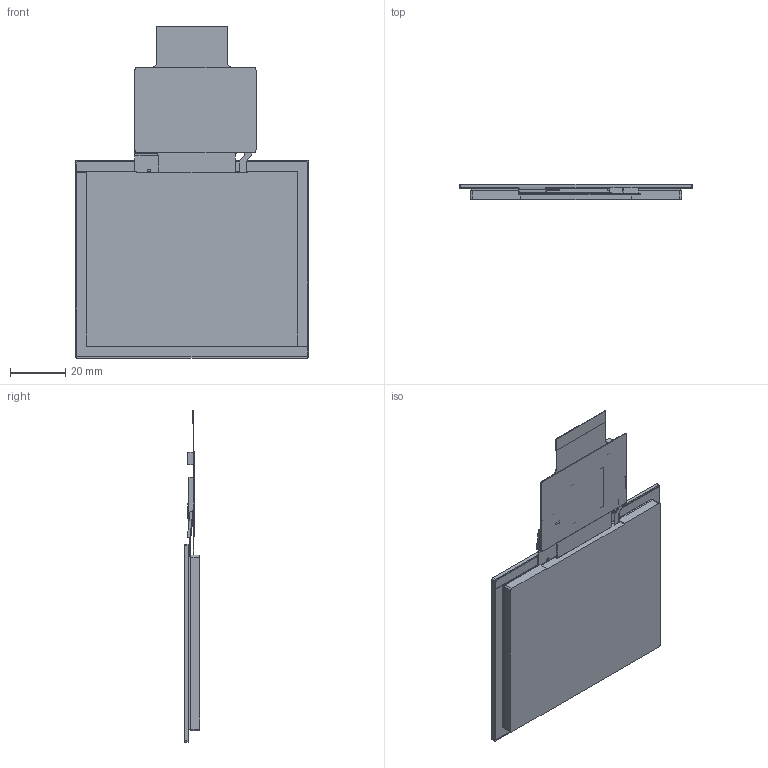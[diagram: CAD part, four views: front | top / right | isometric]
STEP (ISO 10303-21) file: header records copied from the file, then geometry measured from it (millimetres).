
FILE_DESCRIPTION((''),'2;1');
FILE_NAME('3D-DMG32240F035_01WTCZ02','2024-09-11T',('Administrator'),(''),'PRO/ENGINEER BY PARAMETRIC TECHNOLOGY CORPORATION, 2008380','PRO/ENGINEER BY PARAMETRIC TECHNOLOGY CORPORATION, 2008380','');
FILE_SCHEMA(('CONFIG_CONTROL_DESIGN'));
Length unit declared in the file: millimetre
Products named in the file (1): 3D-DMG32240F035_01WTCZ02
Bounding box: 84.84 x 5.54 x 120.55 mm (x, y, z)
Volume: 28466.4 mm3; surface area: 27144.3 mm2
Topology: 1 solids, 1 shells, 154 faces, 1152 edges, 1156 vertices
Faces by surface type: plane 121, cylinder 33
Entity records: 12368 total; most frequent: DIRECTION 1781, CARTESIAN_POINT 1622, ORIENTED_EDGE 888, PRESENTATION_STYLE_ASSIGNMENT 835, STYLED_ITEM 835, VECTOR 825, LINE 825, CURVE_STYLE 773
